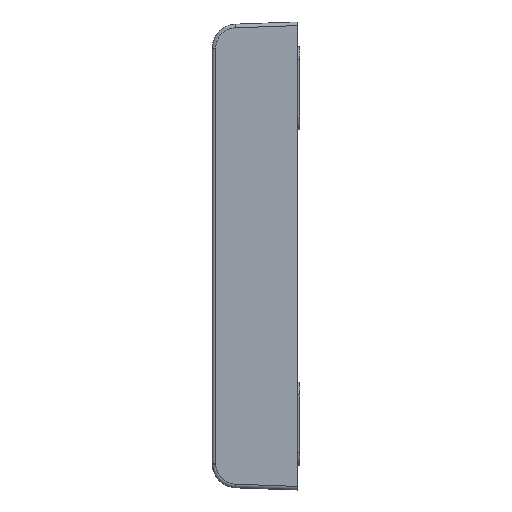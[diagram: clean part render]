
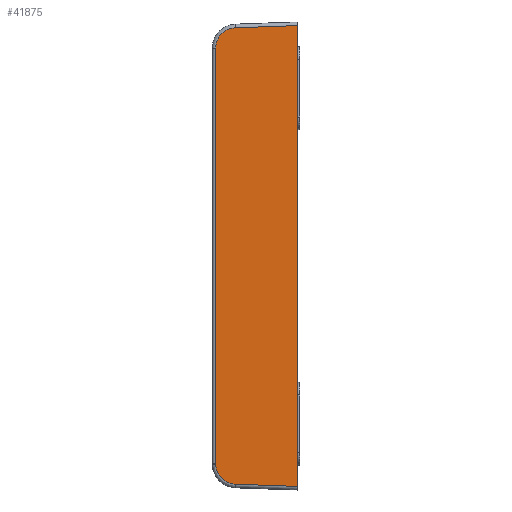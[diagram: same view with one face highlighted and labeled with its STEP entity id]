
A CAD part, left-side view. The second image highlights one B-rep face of the part: STEP entity #41875.
In plain terms, the highlighted planar face has unit normal (-0.999, 0.035, 0).
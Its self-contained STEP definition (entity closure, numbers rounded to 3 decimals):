
#14298 =( BOUNDED_CURVE ( )  B_SPLINE_CURVE ( 3, ( #16303, #16378, #16379, #16380 ),
 .UNSPECIFIED., .F., .T. ) 
 B_SPLINE_CURVE_WITH_KNOTS ( ( 4, 4 ),
 ( 6.248, 6.283 ),
 .UNSPECIFIED. ) 
 CURVE ( )  GEOMETRIC_REPRESENTATION_ITEM ( )  RATIONAL_B_SPLINE_CURVE ( ( 1., 1., 1., 1. ) ) 
 REPRESENTATION_ITEM ( '' )  );
#14349 =( BOUNDED_CURVE ( )  B_SPLINE_CURVE ( 3, ( #19954, #19959, #19960, #19961 ),
 .UNSPECIFIED., .F., .T. ) 
 B_SPLINE_CURVE_WITH_KNOTS ( ( 4, 4 ),
 ( 1.641, 3.176 ),
 .UNSPECIFIED. ) 
 CURVE ( )  GEOMETRIC_REPRESENTATION_ITEM ( )  RATIONAL_B_SPLINE_CURVE ( ( 1., 0.813, 0.813, 1. ) ) 
 REPRESENTATION_ITEM ( '' )  );
#14350 =( BOUNDED_CURVE ( )  B_SPLINE_CURVE ( 3, ( #19958, #19963, #19964, #19965 ),
 .UNSPECIFIED., .F., .T. ) 
 B_SPLINE_CURVE_WITH_KNOTS ( ( 4, 4 ),
 ( 0., 1.501 ),
 .UNSPECIFIED. ) 
 CURVE ( )  GEOMETRIC_REPRESENTATION_ITEM ( )  RATIONAL_B_SPLINE_CURVE ( ( 1., 0.821, 0.821, 1. ) ) 
 REPRESENTATION_ITEM ( '' )  );
#16303 = CARTESIAN_POINT ( 'NONE',  ( -127.179, 23.06, -86.394 ) ) ;
#16378 = CARTESIAN_POINT ( 'NONE',  ( -127.179, 23.06, -86.493 ) ) ;
#16379 = CARTESIAN_POINT ( 'NONE',  ( -127.179, 23.058, -86.592 ) ) ;
#16380 = CARTESIAN_POINT ( 'NONE',  ( -127.179, 23.055, -86.691 ) ) ;
#17055 = CARTESIAN_POINT ( 'NONE',  ( -127.465, 14.86, 94.889 ) ) ;
#17056 = CARTESIAN_POINT ( 'NONE',  ( -127.179, 23.06, 86.394 ) ) ;
#17057 = CARTESIAN_POINT ( 'NONE',  ( -127.465, 14.86, -94.889 ) ) ;
#19178 = VECTOR ( 'NONE', #19477, 1000. ) ;
#19181 = LINE ( 'NONE', #19473, #19178 ) ;
#19262 = VECTOR ( 'NONE', #19917, 1000. ) ;
#19265 = LINE ( 'NONE', #19913, #19262 ) ;
#19289 = LINE ( 'NONE', #19948, #19290 ) ;
#19290 = VECTOR ( 'NONE', #19949, 1000. ) ;
#19297 = LINE ( 'NONE', #19998, #19298 ) ;
#19298 = VECTOR ( 'NONE', #19999, 1000. ) ;
#19473 = CARTESIAN_POINT ( 'NONE',  ( -128.366, -10.945, -97.289 ) ) ;
#19477 = DIRECTION ( 'NONE',  ( 0., 0., 1. ) ) ;
#19913 = CARTESIAN_POINT ( 'NONE',  ( -128.131, -4.219, 95.555 ) ) ;
#19917 = DIRECTION ( 'NONE',  ( 0.035, 0.999, -0.035 ) ) ;
#19948 = CARTESIAN_POINT ( 'NONE',  ( -127.179, 23.06, -97.289 ) ) ;
#19949 = DIRECTION ( 'NONE',  ( 0., 0., -1. ) ) ;
#19954 = CARTESIAN_POINT ( 'NONE',  ( -127.465, 14.86, 94.889 ) ) ;
#19958 = CARTESIAN_POINT ( 'NONE',  ( -127.179, 23.055, -86.691 ) ) ;
#19959 = CARTESIAN_POINT ( 'NONE',  ( -127.296, 19.698, 94.72 ) ) ;
#19960 = CARTESIAN_POINT ( 'NONE',  ( -127.179, 23.06, 91.237 ) ) ;
#19961 = CARTESIAN_POINT ( 'NONE',  ( -127.179, 23.06, 86.394 ) ) ;
#19963 = CARTESIAN_POINT ( 'NONE',  ( -127.185, 22.891, -91.396 ) ) ;
#19964 = CARTESIAN_POINT ( 'NONE',  ( -127.301, 19.563, -94.725 ) ) ;
#19965 = CARTESIAN_POINT ( 'NONE',  ( -127.465, 14.86, -94.889 ) ) ;
#19998 = CARTESIAN_POINT ( 'NONE',  ( -128.368, -10.997, -95.792 ) ) ;
#19999 = DIRECTION ( 'NONE',  ( -0.035, -0.999, -0.035 ) ) ;
#20535 = CARTESIAN_POINT ( 'NONE',  ( -128.366, -10.945, 95.79 ) ) ;
#20536 = CARTESIAN_POINT ( 'NONE',  ( -128.366, -10.945, -95.79 ) ) ;
#38588 = AXIS2_PLACEMENT_3D ( 'NONE', #53165, #53175, #53176 ) ;
#41875 = ADVANCED_FACE ( 'NONE', ( #51177 ), #53166, .T. ) ;
#41900 = EDGE_LOOP ( 'NONE', ( #55906, #55907, #55908, #55909, #55910, #55911, #55912 ) ) ;
#42251 = VERTEX_POINT ( 'NONE', #53942 ) ;
#42252 = VERTEX_POINT ( 'NONE', #53944 ) ;
#51177 = FACE_OUTER_BOUND ( 'NONE', #41900, .T. ) ;
#53165 = CARTESIAN_POINT ( 'NONE',  ( -128.366, -10.945, -97.289 ) ) ;
#53166 = PLANE ( 'NONE',  #38588 ) ;
#53175 = DIRECTION ( 'NONE',  ( -0.999, 0.035, 0. ) ) ;
#53176 = DIRECTION ( 'NONE',  ( -0.035, -0.999, 0. ) ) ;
#53868 = EDGE_CURVE ( 'NONE', #42252, #42251, #14298, .T. ) ;
#53942 = CARTESIAN_POINT ( 'NONE',  ( -127.179, 23.055, -86.691 ) ) ;
#53944 = CARTESIAN_POINT ( 'NONE',  ( -127.179, 23.06, -86.394 ) ) ;
#55448 = VERTEX_POINT ( 'NONE', #17055 ) ;
#55449 = VERTEX_POINT ( 'NONE', #17056 ) ;
#55450 = VERTEX_POINT ( 'NONE', #17057 ) ;
#55906 = ORIENTED_EDGE ( 'NONE', *, *, #57263, .T. ) ;
#55907 = ORIENTED_EDGE ( 'NONE', *, *, #57415, .T. ) ;
#55908 = ORIENTED_EDGE ( 'NONE', *, *, #57437, .T. ) ;
#55909 = ORIENTED_EDGE ( 'NONE', *, *, #57433, .T. ) ;
#55910 = ORIENTED_EDGE ( 'NONE', *, *, #53868, .T. ) ;
#55911 = ORIENTED_EDGE ( 'NONE', *, *, #57438, .T. ) ;
#55912 = ORIENTED_EDGE ( 'NONE', *, *, #57441, .T. ) ;
#57263 = EDGE_CURVE ( 'NONE', #57596, #57595, #19181, .T. ) ;
#57415 = EDGE_CURVE ( 'NONE', #57595, #55448, #19265, .T. ) ;
#57433 = EDGE_CURVE ( 'NONE', #55449, #42252, #19289, .T. ) ;
#57437 = EDGE_CURVE ( 'NONE', #55448, #55449, #14349, .T. ) ;
#57438 = EDGE_CURVE ( 'NONE', #42251, #55450, #14350, .T. ) ;
#57441 = EDGE_CURVE ( 'NONE', #55450, #57596, #19297, .T. ) ;
#57595 = VERTEX_POINT ( 'NONE', #20535 ) ;
#57596 = VERTEX_POINT ( 'NONE', #20536 ) ;
